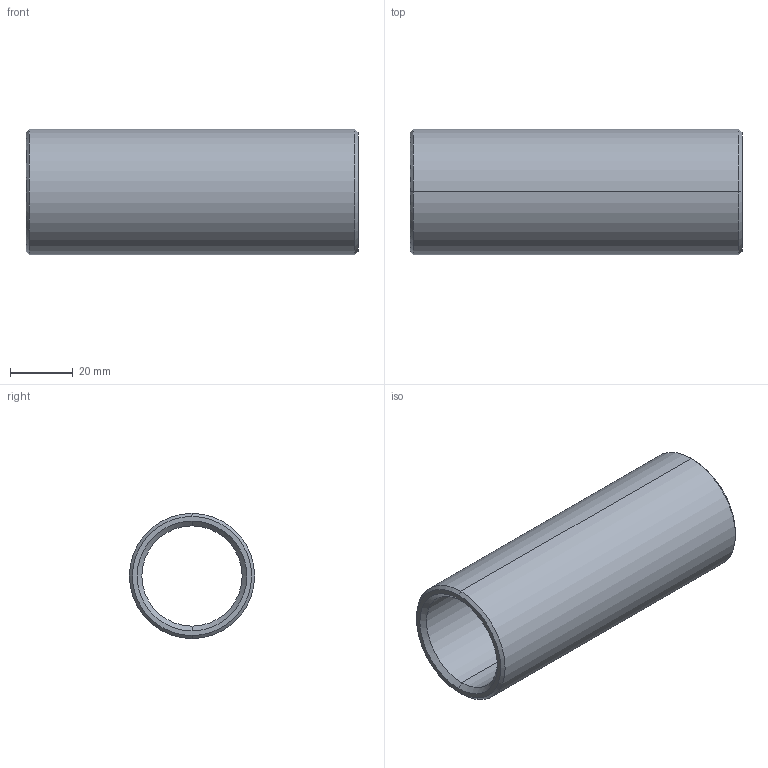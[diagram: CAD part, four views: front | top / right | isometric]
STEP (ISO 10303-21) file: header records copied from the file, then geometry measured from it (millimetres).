
FILE_DESCRIPTION(('CATIA V5 STEP Exchange'),'2;1');
FILE_NAME('C:\Users\Utente\Desktop\IO LAVORO\3D X SITO CF\X SITO\PLASTICA\352\352-32X106.stp','2021-04-14T14:57:28+00:00',('none'),('none'),'CATIA Version 5 Release 20 GA (IN-10)','CATIA V5 STEP AP203','none');
FILE_SCHEMA(('CONFIG_CONTROL_DESIGN'));
Length unit declared in the file: millimetre
Products named in the file (1): 352-32X106
Bounding box: 106 x 40 x 40 mm (x, y, z)
Volume: 47691.2 mm3; surface area: 24603.5 mm2
Topology: 1 solids, 1 shells, 14 faces, 44 edges, 32 vertices
Faces by surface type: cone 6, cylinder 4, plane 2, torus 2
Entity records: 634 total; most frequent: CARTESIAN_POINT 203, ORIENTED_EDGE 88, DIRECTION 64, EDGE_CURVE 44, AXIS2_PLACEMENT_3D 41, VERTEX_POINT 32, CIRCLE 26, EDGE_LOOP 16
